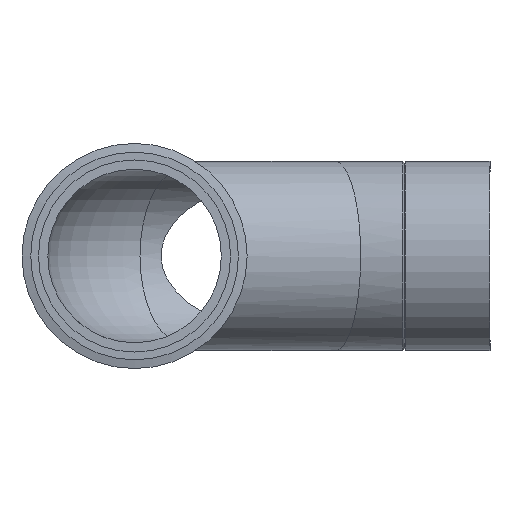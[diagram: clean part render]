
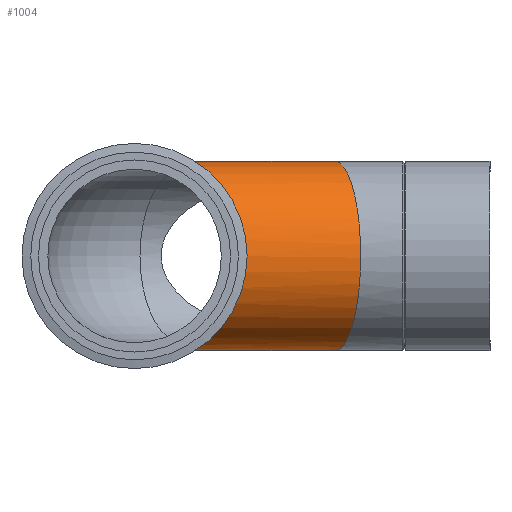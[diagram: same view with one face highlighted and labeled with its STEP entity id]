
A CAD part, left-side view. The second image highlights one B-rep face of the part: STEP entity #1004.
In plain terms, the highlighted cylindrical face has radius 55 mm (diameter 110 mm), a full revolution.
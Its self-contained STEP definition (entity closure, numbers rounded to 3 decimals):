
#37=FACE_BOUND($,#273,.T.);
#72=ELLIPSE($,#1077,56.94,55.);
#79=ELLIPSE($,#1128,110.,55.);
#136=CYLINDRICAL_SURFACE($,#1127,55.);
#188=FACE_OUTER_BOUND($,#272,.T.);
#272=EDGE_LOOP($,(#802,#803));
#273=EDGE_LOOP($,(#804));
#357=CIRCLE($,#1125,55.);
#467=VERTEX_POINT($,#1617);
#468=VERTEX_POINT($,#1619);
#500=VERTEX_POINT($,#1825);
#573=EDGE_CURVE($,#467,#468,#72,.T.);
#610=EDGE_CURVE($,#500,#500,#357,.T.);
#611=EDGE_CURVE($,#467,#468,#79,.T.);
#802=ORIENTED_EDGE($,*,*,#573,.F.);
#803=ORIENTED_EDGE($,*,*,#611,.T.);
#804=ORIENTED_EDGE($,*,*,#610,.F.);
#1004=ADVANCED_FACE($,(#188,#37),#136,.T.);
#1077=AXIS2_PLACEMENT_3D($,#1620,#1286,#1287);
#1125=AXIS2_PLACEMENT_3D($,#1826,#1387,#1388);
#1127=AXIS2_PLACEMENT_3D($,#1828,#1391,#1392);
#1128=AXIS2_PLACEMENT_3D($,#1829,#1393,#1394);
#1286=DIRECTION('center_axis',(0.259,-0.966,0.));
#1287=DIRECTION('ref_axis',(-0.966,-0.259,0.));
#1387=DIRECTION('center_axis',(-0.5,0.866,0.));
#1388=DIRECTION('ref_axis',(-0.866,-0.5,0.));
#1391=DIRECTION('center_axis',(-0.5,0.866,0.));
#1392=DIRECTION('ref_axis',(-0.866,-0.5,0.));
#1393=DIRECTION('center_axis',(-1.,0.,0.));
#1394=DIRECTION('ref_axis',(0.,-1.,0.));
#1617=CARTESIAN_POINT('',(0.,90.,55.));
#1619=CARTESIAN_POINT('',(0.,90.,-55.));
#1620=CARTESIAN_POINT('Origin',(0.,90.,
0.));
#1825=CARTESIAN_POINT('',(-3.369,205.835,0.));
#1826=CARTESIAN_POINT('Origin',(-51.,178.335,0.));
#1828=CARTESIAN_POINT('Origin',(-51.,178.335,0.));
#1829=CARTESIAN_POINT('Origin',(0.,90.,0.));
